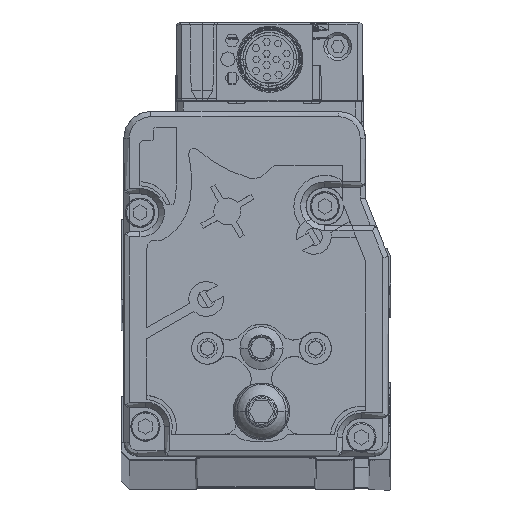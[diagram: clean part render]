
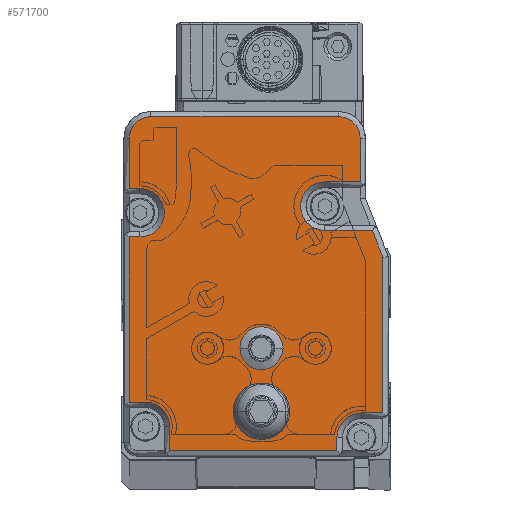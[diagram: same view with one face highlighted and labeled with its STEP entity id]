
A CAD part, top view. The second image highlights one B-rep face of the part: STEP entity #571700.
In plain terms, the highlighted planar face has unit normal (0, 0, 1).
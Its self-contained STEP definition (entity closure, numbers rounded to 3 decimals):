
#506190=CARTESIAN_POINT('',(-40.059,22.124,
1572.39));
#506200=VERTEX_POINT('',#506190);
#506230=CARTESIAN_POINT('',(-44.059,22.124,
1572.39));
#506240=DIRECTION('',(0.,0.,1.));
#506250=DIRECTION('',(1.,0.,0.));
#506260=AXIS2_PLACEMENT_3D('',#506230,#506240,#506250);
#506270=CIRCLE('',#506260,4.);
#506280=CARTESIAN_POINT('',(-48.059,22.124,
1572.39));
#506290=VERTEX_POINT('',#506280);
#506300=EDGE_CURVE('',#506290,#506200,#506270,.T.);
#515790=CARTESIAN_POINT('',(-39.056,10.421,
1572.39));
#515800=VERTEX_POINT('',#515790);
#515960=CARTESIAN_POINT('',(-49.056,10.421,
1572.39));
#515970=VERTEX_POINT('',#515960);
#516000=CARTESIAN_POINT('',(-44.056,10.421,
1572.39));
#516010=DIRECTION('',(0.,0.,1.));
#516020=DIRECTION('',(1.,0.,0.));
#516030=AXIS2_PLACEMENT_3D('',#516000,#516010,#516020);
#516040=CIRCLE('',#516030,5.);
#516050=EDGE_CURVE('',#515800,#515970,#516040,.T.);
#538480=CARTESIAN_POINT('',(-66.559,51.727,
1572.39));
#538490=DIRECTION('',(-1.,0.,0.));
#538500=VECTOR('',#538490,1.);
#538510=LINE('',#538480,#538500);
#538520=CARTESIAN_POINT('',(-66.559,51.727,
1572.39));
#538530=VERTEX_POINT('',#538520);
#538540=CARTESIAN_POINT('',(-68.559,51.727,
1572.39));
#538550=VERTEX_POINT('',#538540);
#538560=EDGE_CURVE('',#538530,#538550,#538510,.T.);
#539760=CARTESIAN_POINT('',(-66.559,47.227,
1572.39));
#539770=DIRECTION('',(0.,0.,1.));
#539780=DIRECTION('',(1.,0.,0.));
#539790=AXIS2_PLACEMENT_3D('',#539760,#539770,#539780);
#539800=CIRCLE('',#539790,4.5);
#539810=CARTESIAN_POINT('',(-66.559,42.727,
1572.39));
#539820=VERTEX_POINT('',#539810);
#539830=EDGE_CURVE('',#539820,#538530,#539800,.T.);
#541850=CARTESIAN_POINT('',(-30.059,3.124,
1572.39));
#541860=DIRECTION('',(-1.,0.,0.));
#541870=VECTOR('',#541860,1.);
#541880=LINE('',#541850,#541870);
#541890=CARTESIAN_POINT('',(-30.059,3.124,
1572.39));
#541900=VERTEX_POINT('',#541890);
#541910=CARTESIAN_POINT('',(-61.059,3.124,
1572.39));
#541920=VERTEX_POINT('',#541910);
#541930=EDGE_CURVE('',#541900,#541920,#541880,.T.);
#542420=CARTESIAN_POINT('',(-30.059,5.624,
1572.39));
#542430=DIRECTION('',(0.,-1.,0.));
#542440=VECTOR('',#542430,1.);
#542450=LINE('',#542420,#542440);
#542460=CARTESIAN_POINT('',(-30.059,5.624,
1572.39));
#542470=VERTEX_POINT('',#542460);
#542480=EDGE_CURVE('',#542470,#541900,#542450,.T.);
#543380=CARTESIAN_POINT('',(-32.309,48.424,
1572.39));
#543390=DIRECTION('',(0.,0.,1.));
#543400=DIRECTION('',(1.,0.,0.));
#543410=AXIS2_PLACEMENT_3D('',#543380,#543390,#543400);
#543420=CIRCLE('',#543410,4.5);
#543430=CARTESIAN_POINT('',(-32.309,52.924,
1572.39));
#543440=VERTEX_POINT('',#543430);
#543450=CARTESIAN_POINT('',(-32.309,43.924,
1572.39));
#543460=VERTEX_POINT('',#543450);
#543470=EDGE_CURVE('',#543440,#543460,#543420,.T.);
#543770=CARTESIAN_POINT('',(-32.309,43.924,
1572.39));
#543780=DIRECTION('',(1.,0.,0.));
#543790=VECTOR('',#543780,1.);
#543800=LINE('',#543770,#543790);
#543810=CARTESIAN_POINT('',(-23.499,43.924,
1572.39));
#543820=VERTEX_POINT('',#543810);
#543830=EDGE_CURVE('',#543460,#543820,#543800,.T.);
#545080=CARTESIAN_POINT('',(-23.499,43.924,
1572.39));
#545090=DIRECTION('',(0.362,-0.932,0.));
#545100=VECTOR('',#545090,1.);
#545110=LINE('',#545080,#545100);
#545120=CARTESIAN_POINT('',(-21.559,38.937,
1572.39));
#545130=VERTEX_POINT('',#545120);
#545140=EDGE_CURVE('',#543820,#545130,#545110,.T.);
#546510=CARTESIAN_POINT('',(-21.559,38.937,
1572.39));
#546520=DIRECTION('',(0.,-1.,0.));
#546530=VECTOR('',#546520,1.);
#546540=LINE('',#546510,#546530);
#546550=CARTESIAN_POINT('',(-21.559,10.124,
1572.39));
#546560=VERTEX_POINT('',#546550);
#546570=EDGE_CURVE('',#545130,#546560,#546540,.T.);
#547770=CARTESIAN_POINT('',(-21.559,10.124,
1572.39));
#547780=DIRECTION('',(-1.,0.,0.));
#547790=VECTOR('',#547780,1.);
#547800=LINE('',#547770,#547790);
#547810=CARTESIAN_POINT('',(-25.559,10.124,
1572.39));
#547820=VERTEX_POINT('',#547810);
#547830=EDGE_CURVE('',#546560,#547820,#547800,.T.);
#548150=CARTESIAN_POINT('',(-25.559,5.624,
1572.39));
#548160=DIRECTION('',(0.,0.,1.));
#548170=DIRECTION('',(1.,0.,0.));
#548180=AXIS2_PLACEMENT_3D('',#548150,#548160,#548170);
#548190=CIRCLE('',#548180,4.5);
#548200=EDGE_CURVE('',#547820,#542470,#548190,.T.);
#555410=CARTESIAN_POINT('',(-61.059,3.124,
1572.39));
#555420=DIRECTION('',(0.,1.,0.));
#555430=VECTOR('',#555420,1.);
#555440=LINE('',#555410,#555430);
#555450=CARTESIAN_POINT('',(-61.059,7.624,
1572.39));
#555460=VERTEX_POINT('',#555450);
#555470=EDGE_CURVE('',#541920,#555460,#555440,.T.);
#555730=CARTESIAN_POINT('',(-65.559,7.624,
1572.39));
#555740=DIRECTION('',(0.,0.,1.));
#555750=DIRECTION('',(1.,0.,0.));
#555760=AXIS2_PLACEMENT_3D('',#555730,#555740,#555750);
#555770=CIRCLE('',#555760,4.5);
#555780=CARTESIAN_POINT('',(-65.559,12.124,
1572.39));
#555790=VERTEX_POINT('',#555780);
#555800=EDGE_CURVE('',#555460,#555790,#555770,.T.);
#556050=CARTESIAN_POINT('',(-65.559,12.124,
1572.39));
#556060=DIRECTION('',(-1.,0.,0.));
#556070=VECTOR('',#556060,1.);
#556080=LINE('',#556050,#556070);
#556090=CARTESIAN_POINT('',(-68.559,12.124,
1572.39));
#556100=VERTEX_POINT('',#556090);
#556110=EDGE_CURVE('',#555790,#556100,#556080,.T.);
#559850=CARTESIAN_POINT('',(-68.559,12.124,
1572.39));
#559860=DIRECTION('',(0.,1.,0.));
#559870=VECTOR('',#559860,1.);
#559880=LINE('',#559850,#559870);
#559890=CARTESIAN_POINT('',(-68.559,42.727,
1572.39));
#559900=VERTEX_POINT('',#559890);
#559910=EDGE_CURVE('',#556100,#559900,#559880,.T.);
#561130=CARTESIAN_POINT('',(-68.559,42.727,
1572.39));
#561140=DIRECTION('',(1.,0.,0.));
#561150=VECTOR('',#561140,1.);
#561160=LINE('',#561130,#561150);
#561170=EDGE_CURVE('',#559900,#539820,#561160,.T.);
#562400=CARTESIAN_POINT('',(-68.559,51.727,
1572.39));
#562410=DIRECTION('',(0.,1.,0.));
#562420=VECTOR('',#562410,1.);
#562430=LINE('',#562400,#562420);
#562440=CARTESIAN_POINT('',(-68.559,61.024,
1572.39));
#562450=VERTEX_POINT('',#562440);
#562460=EDGE_CURVE('',#538550,#562450,#562430,.T.);
#562790=CARTESIAN_POINT('',(-64.559,61.024,
1572.39));
#562800=DIRECTION('',(0.,0.,-1.));
#562810=DIRECTION('',(-1.,0.,0.));
#562820=AXIS2_PLACEMENT_3D('',#562790,#562800,#562810);
#562830=CIRCLE('',#562820,4.);
#562840=CARTESIAN_POINT('',(-64.559,65.024,
1572.39));
#562850=VERTEX_POINT('',#562840);
#562860=EDGE_CURVE('',#562450,#562850,#562830,.T.);
#563180=CARTESIAN_POINT('',(-64.559,65.024,
1572.39));
#563190=DIRECTION('',(1.,0.,0.));
#563200=VECTOR('',#563190,1.);
#563210=LINE('',#563180,#563200);
#563220=CARTESIAN_POINT('',(-29.759,65.024,
1572.39));
#563230=VERTEX_POINT('',#563220);
#563240=EDGE_CURVE('',#562850,#563230,#563210,.T.);
#563680=CARTESIAN_POINT('',(-25.759,61.024,
1572.39));
#563690=VERTEX_POINT('',#563680);
#563720=CARTESIAN_POINT('',(-29.759,61.024,
1572.39));
#563730=DIRECTION('',(0.,0.,-1.));
#563740=DIRECTION('',(-1.,0.,0.));
#563750=AXIS2_PLACEMENT_3D('',#563720,#563730,#563740);
#563760=CIRCLE('',#563750,4.);
#563770=EDGE_CURVE('',#563230,#563690,#563760,.T.);
#563950=CARTESIAN_POINT('',(-25.759,61.024,
1572.39));
#563960=DIRECTION('',(0.,-1.,0.));
#563970=VECTOR('',#563960,1.);
#563980=LINE('',#563950,#563970);
#563990=CARTESIAN_POINT('',(-25.759,52.924,
1572.39));
#564000=VERTEX_POINT('',#563990);
#564010=EDGE_CURVE('',#563690,#564000,#563980,.T.);
#564360=CARTESIAN_POINT('',(-25.759,52.924,
1572.39));
#564370=DIRECTION('',(-1.,0.,0.));
#564380=VECTOR('',#564370,1.);
#564390=LINE('',#564360,#564380);
#564400=EDGE_CURVE('',#564000,#543440,#564390,.T.);
#571320=CARTESIAN_POINT('',(-45.059,34.074,
1572.39));
#571330=DIRECTION('',(0.,0.,1.));
#571340=DIRECTION('',(1.,0.,0.));
#571350=AXIS2_PLACEMENT_3D('',#571320,#571330,#571340);
#571360=PLANE('',#571350);
#571370=ORIENTED_EDGE('',*,*,#555470,.F.);
#571380=ORIENTED_EDGE('',*,*,#555800,.F.);
#571390=ORIENTED_EDGE('',*,*,#556110,.F.);
#571400=ORIENTED_EDGE('',*,*,#559910,.F.);
#571410=ORIENTED_EDGE('',*,*,#561170,.F.);
#571420=ORIENTED_EDGE('',*,*,#539830,.F.);
#571430=ORIENTED_EDGE('',*,*,#538560,.F.);
#571440=ORIENTED_EDGE('',*,*,#562460,.F.);
#571450=ORIENTED_EDGE('',*,*,#562860,.F.);
#571460=ORIENTED_EDGE('',*,*,#563240,.F.);
#571470=ORIENTED_EDGE('',*,*,#563770,.F.);
#571480=ORIENTED_EDGE('',*,*,#564010,.F.);
#571490=ORIENTED_EDGE('',*,*,#564400,.F.);
#571500=ORIENTED_EDGE('',*,*,#543470,.F.);
#571510=ORIENTED_EDGE('',*,*,#543830,.F.);
#571520=ORIENTED_EDGE('',*,*,#545140,.F.);
#571530=ORIENTED_EDGE('',*,*,#546570,.F.);
#571540=ORIENTED_EDGE('',*,*,#547830,.F.);
#571550=ORIENTED_EDGE('',*,*,#548200,.F.);
#571560=ORIENTED_EDGE('',*,*,#542480,.F.);
#571570=ORIENTED_EDGE('',*,*,#541930,.F.);
#571580=EDGE_LOOP('',(#571570,#571560,#571550,#571540,#571530,#571520,
#571510,#571500,#571490,#571480,#571470,#571460,#571450,#571440,#571430,
#571420,#571410,#571400,#571390,#571380,#571370));
#571590=FACE_OUTER_BOUND('',#571580,.T.);
#571600=EDGE_CURVE('',#515970,#515800,#516040,.T.);
#571610=ORIENTED_EDGE('',*,*,#571600,.F.);
#571620=ORIENTED_EDGE('',*,*,#516050,.F.);
#571630=EDGE_LOOP('',(#571620,#571610));
#571640=FACE_BOUND('',#571630,.T.);
#571650=EDGE_CURVE('',#506200,#506290,#506270,.T.);
#571660=ORIENTED_EDGE('',*,*,#571650,.F.);
#571670=ORIENTED_EDGE('',*,*,#506300,.F.);
#571680=EDGE_LOOP('',(#571670,#571660));
#571690=FACE_BOUND('',#571680,.T.);
#571700=ADVANCED_FACE('',(#571590,#571640,#571690),#571360,.T.);
